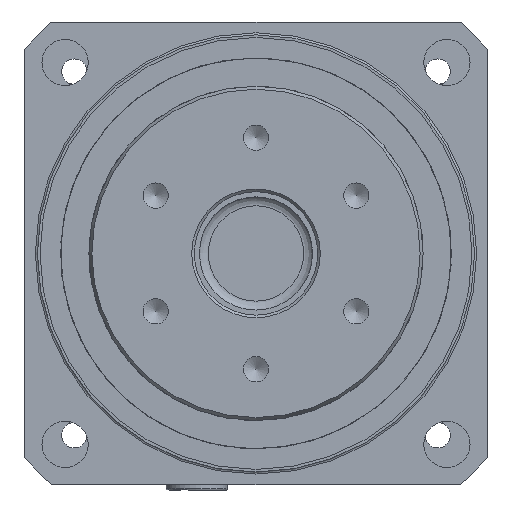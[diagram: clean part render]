
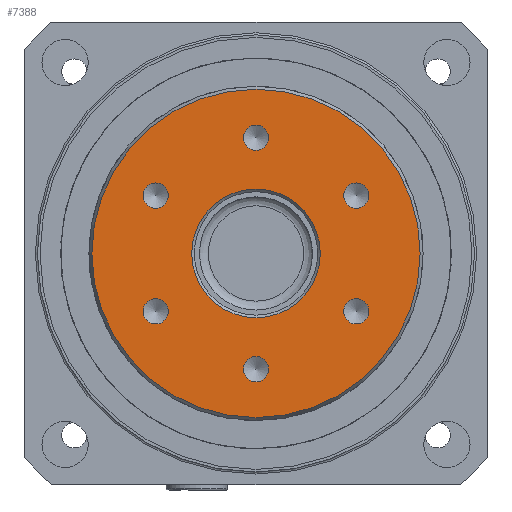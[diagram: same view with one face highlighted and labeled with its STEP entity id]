
A CAD part, left-side view. The second image highlights one B-rep face of the part: STEP entity #7388.
In plain terms, the highlighted planar face has unit normal (-1, 0, 0).
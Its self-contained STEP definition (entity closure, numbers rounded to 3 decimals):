
#674=FACE_BOUND('',#2039,.T.);
#675=FACE_BOUND('',#2040,.T.);
#676=FACE_BOUND('',#2041,.T.);
#677=FACE_BOUND('',#2042,.T.);
#678=FACE_BOUND('',#2043,.T.);
#679=FACE_BOUND('',#2044,.T.);
#680=FACE_BOUND('',#2045,.T.);
#1436=PLANE('',#8366);
#1609=FACE_OUTER_BOUND('',#2038,.T.);
#2038=EDGE_LOOP('',(#5481));
#2039=EDGE_LOOP('',(#5482,#5483));
#2040=EDGE_LOOP('',(#5484,#5485));
#2041=EDGE_LOOP('',(#5486,#5487));
#2042=EDGE_LOOP('',(#5488,#5489));
#2043=EDGE_LOOP('',(#5490,#5491));
#2044=EDGE_LOOP('',(#5492,#5493));
#2045=EDGE_LOOP('',(#5494));
#2619=CIRCLE('',#8330,2.459);
#2620=CIRCLE('',#8331,2.459);
#2623=CIRCLE('',#8336,2.459);
#2624=CIRCLE('',#8337,2.459);
#2627=CIRCLE('',#8342,2.459);
#2628=CIRCLE('',#8343,2.459);
#2631=CIRCLE('',#8348,2.459);
#2632=CIRCLE('',#8349,2.459);
#2635=CIRCLE('',#8354,2.459);
#2636=CIRCLE('',#8355,2.459);
#2639=CIRCLE('',#8360,2.459);
#2640=CIRCLE('',#8361,2.459);
#2641=CIRCLE('',#8363,12.5);
#2644=CIRCLE('',#8367,31.923);
#3353=VERTEX_POINT('',#12335);
#3354=VERTEX_POINT('',#12336);
#3358=VERTEX_POINT('',#12348);
#3359=VERTEX_POINT('',#12349);
#3363=VERTEX_POINT('',#12361);
#3364=VERTEX_POINT('',#12362);
#3368=VERTEX_POINT('',#12374);
#3369=VERTEX_POINT('',#12375);
#3373=VERTEX_POINT('',#12387);
#3374=VERTEX_POINT('',#12388);
#3378=VERTEX_POINT('',#12400);
#3379=VERTEX_POINT('',#12401);
#3380=VERTEX_POINT('',#12406);
#3383=VERTEX_POINT('',#12414);
#4227=EDGE_CURVE('',#3353,#3354,#2619,.T.);
#4228=EDGE_CURVE('',#3354,#3353,#2620,.T.);
#4233=EDGE_CURVE('',#3358,#3359,#2623,.T.);
#4234=EDGE_CURVE('',#3359,#3358,#2624,.T.);
#4239=EDGE_CURVE('',#3363,#3364,#2627,.T.);
#4240=EDGE_CURVE('',#3364,#3363,#2628,.T.);
#4245=EDGE_CURVE('',#3368,#3369,#2631,.T.);
#4246=EDGE_CURVE('',#3369,#3368,#2632,.T.);
#4251=EDGE_CURVE('',#3373,#3374,#2635,.T.);
#4252=EDGE_CURVE('',#3374,#3373,#2636,.T.);
#4257=EDGE_CURVE('',#3378,#3379,#2639,.T.);
#4258=EDGE_CURVE('',#3379,#3378,#2640,.T.);
#4260=EDGE_CURVE('',#3380,#3380,#2641,.T.);
#4264=EDGE_CURVE('',#3383,#3383,#2644,.T.);
#5481=ORIENTED_EDGE('',*,*,#4264,.F.);
#5482=ORIENTED_EDGE('',*,*,#4227,.T.);
#5483=ORIENTED_EDGE('',*,*,#4228,.T.);
#5484=ORIENTED_EDGE('',*,*,#4233,.T.);
#5485=ORIENTED_EDGE('',*,*,#4234,.T.);
#5486=ORIENTED_EDGE('',*,*,#4239,.T.);
#5487=ORIENTED_EDGE('',*,*,#4240,.T.);
#5488=ORIENTED_EDGE('',*,*,#4245,.T.);
#5489=ORIENTED_EDGE('',*,*,#4246,.T.);
#5490=ORIENTED_EDGE('',*,*,#4251,.T.);
#5491=ORIENTED_EDGE('',*,*,#4252,.T.);
#5492=ORIENTED_EDGE('',*,*,#4257,.T.);
#5493=ORIENTED_EDGE('',*,*,#4258,.T.);
#5494=ORIENTED_EDGE('',*,*,#4260,.F.);
#7388=ADVANCED_FACE('',(#1609,#674,#675,#676,#677,#678,#679,#680),#1436,
 .T.);
#8330=AXIS2_PLACEMENT_3D('',#12337,#9694,#9695);
#8331=AXIS2_PLACEMENT_3D('',#12338,#9696,#9697);
#8336=AXIS2_PLACEMENT_3D('',#12350,#9708,#9709);
#8337=AXIS2_PLACEMENT_3D('',#12351,#9710,#9711);
#8342=AXIS2_PLACEMENT_3D('',#12363,#9722,#9723);
#8343=AXIS2_PLACEMENT_3D('',#12364,#9724,#9725);
#8348=AXIS2_PLACEMENT_3D('',#12376,#9736,#9737);
#8349=AXIS2_PLACEMENT_3D('',#12377,#9738,#9739);
#8354=AXIS2_PLACEMENT_3D('',#12389,#9750,#9751);
#8355=AXIS2_PLACEMENT_3D('',#12390,#9752,#9753);
#8360=AXIS2_PLACEMENT_3D('',#12402,#9764,#9765);
#8361=AXIS2_PLACEMENT_3D('',#12403,#9766,#9767);
#8363=AXIS2_PLACEMENT_3D('',#12407,#9771,#9772);
#8366=AXIS2_PLACEMENT_3D('',#12413,#9778,#9779);
#8367=AXIS2_PLACEMENT_3D('',#12415,#9780,#9781);
#9694=DIRECTION('center_axis',(1.,0.,0.));
#9695=DIRECTION('ref_axis',(0.,0.866,0.5));
#9696=DIRECTION('center_axis',(1.,0.,0.));
#9697=DIRECTION('ref_axis',(0.,0.866,0.5));
#9708=DIRECTION('center_axis',(1.,0.,0.));
#9709=DIRECTION('ref_axis',(0.,0.866,-0.5));
#9710=DIRECTION('center_axis',(1.,0.,0.));
#9711=DIRECTION('ref_axis',(0.,0.866,-0.5));
#9722=DIRECTION('center_axis',(1.,0.,0.));
#9723=DIRECTION('ref_axis',(0.,0.,-1.));
#9724=DIRECTION('center_axis',(1.,0.,0.));
#9725=DIRECTION('ref_axis',(0.,0.,-1.));
#9736=DIRECTION('center_axis',(1.,0.,0.));
#9737=DIRECTION('ref_axis',(0.,-0.866,-0.5));
#9738=DIRECTION('center_axis',(1.,0.,0.));
#9739=DIRECTION('ref_axis',(0.,-0.866,-0.5));
#9750=DIRECTION('center_axis',(1.,0.,0.));
#9751=DIRECTION('ref_axis',(0.,-0.866,0.5));
#9752=DIRECTION('center_axis',(1.,0.,0.));
#9753=DIRECTION('ref_axis',(0.,-0.866,0.5));
#9764=DIRECTION('center_axis',(1.,0.,0.));
#9765=DIRECTION('ref_axis',(0.,0.,1.));
#9766=DIRECTION('center_axis',(1.,0.,0.));
#9767=DIRECTION('ref_axis',(0.,0.,1.));
#9771=DIRECTION('center_axis',(-1.,0.,0.));
#9772=DIRECTION('ref_axis',(0.,-1.,0.));
#9778=DIRECTION('center_axis',(-1.,0.,0.));
#9779=DIRECTION('ref_axis',(0.,0.,1.));
#9780=DIRECTION('center_axis',(1.,0.,0.));
#9781=DIRECTION('ref_axis',(0.,-1.,0.));
#12335=CARTESIAN_POINT('',(0.,21.615,12.479));
#12336=CARTESIAN_POINT('',(0.,17.356,10.021));
#12337=CARTESIAN_POINT('Origin',(0.,19.486,11.25));
#12338=CARTESIAN_POINT('Origin',(0.,19.486,11.25));
#12348=CARTESIAN_POINT('',(0.,21.615,-12.479));
#12349=CARTESIAN_POINT('',(0.,17.356,-10.021));
#12350=CARTESIAN_POINT('Origin',(0.,19.486,-11.25));
#12351=CARTESIAN_POINT('Origin',(0.,19.486,-11.25));
#12361=CARTESIAN_POINT('',(0.,0.,
-24.959));
#12362=CARTESIAN_POINT('',(0.,0.,-20.042));
#12363=CARTESIAN_POINT('Origin',(0.,0.,-22.5));
#12364=CARTESIAN_POINT('Origin',(0.,0.,-22.5));
#12374=CARTESIAN_POINT('',(0.,-21.615,-12.479));
#12375=CARTESIAN_POINT('',(0.,-17.356,-10.021));
#12376=CARTESIAN_POINT('Origin',(0.,-19.486,-11.25));
#12377=CARTESIAN_POINT('Origin',(0.,-19.486,-11.25));
#12387=CARTESIAN_POINT('',(0.,-21.615,12.479));
#12388=CARTESIAN_POINT('',(0.,-17.356,10.021));
#12389=CARTESIAN_POINT('Origin',(0.,-19.486,11.25));
#12390=CARTESIAN_POINT('Origin',(0.,-19.486,11.25));
#12400=CARTESIAN_POINT('',(0.,0.,24.959));
#12401=CARTESIAN_POINT('',(0.,0.,20.042));
#12402=CARTESIAN_POINT('Origin',(0.,0.,22.5));
#12403=CARTESIAN_POINT('Origin',(0.,0.,22.5));
#12406=CARTESIAN_POINT('',(0.,12.5,0.));
#12407=CARTESIAN_POINT('Origin',(0.,0.,0.));
#12413=CARTESIAN_POINT('Origin',(0.,32.5,0.));
#12414=CARTESIAN_POINT('',(0.,31.923,0.));
#12415=CARTESIAN_POINT('Origin',(0.,0.,0.));
